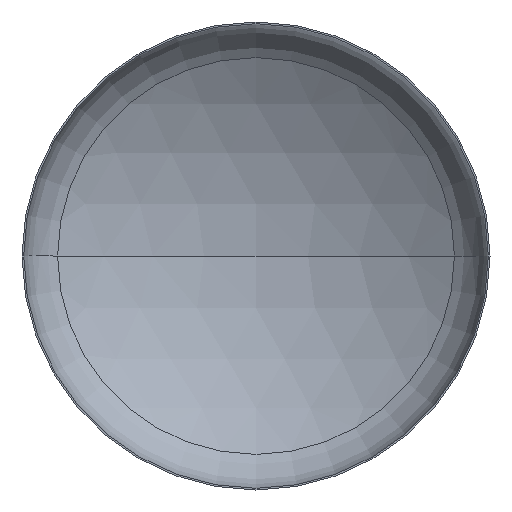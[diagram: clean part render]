
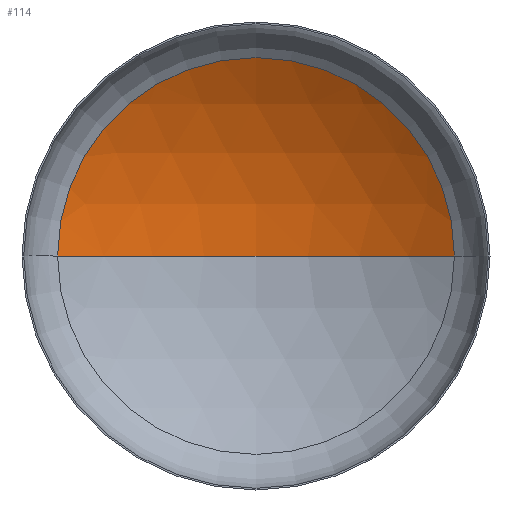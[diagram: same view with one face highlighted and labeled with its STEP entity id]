
A CAD part, front view. The second image highlights one B-rep face of the part: STEP entity #114.
In plain terms, the highlighted spherical face has radius 2880 mm.
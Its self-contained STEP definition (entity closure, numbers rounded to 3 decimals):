
#9 = DIRECTION ( 'NONE',  ( 0., 0., -1. ) ) ;
#12 = CARTESIAN_POINT ( 'NONE',  ( 1526.09, 510.676, 0. ) ) ;
#25 = AXIS2_PLACEMENT_3D ( 'NONE', #289, #44, #36 ) ;
#26 = AXIS2_PLACEMENT_3D ( 'NONE', #202, #218, #219 ) ;
#28 = AXIS2_PLACEMENT_3D ( 'NONE', #292, #9, #204 ) ;
#30 = ORIENTED_EDGE ( 'NONE', *, *, #102, .T. ) ;
#31 = EDGE_LOOP ( 'NONE', ( #155, #30, #148 ) ) ;
#32 = AXIS2_PLACEMENT_3D ( 'NONE', #225, #209, #211 ) ;
#36 = DIRECTION ( 'NONE',  ( -1., 0., 0. ) ) ;
#44 = DIRECTION ( 'NONE',  ( 0., 0., -1. ) ) ;
#83 = EDGE_CURVE ( 'NONE', #171, #140, #356, .T. ) ;
#89 = CARTESIAN_POINT ( 'NONE',  ( 0., 948.249, 0. ) ) ;
#102 = EDGE_CURVE ( 'NONE', #267, #171, #285, .T. ) ;
#114 = ADVANCED_FACE ( 'NONE', ( #406 ), #227, .F. ) ;
#135 = EDGE_CURVE ( 'NONE', #267, #140, #400, .T. ) ;
#140 = VERTEX_POINT ( 'NONE', #349 ) ;
#148 = ORIENTED_EDGE ( 'NONE', *, *, #83, .T. ) ;
#155 = ORIENTED_EDGE ( 'NONE', *, *, #135, .F. ) ;
#171 = VERTEX_POINT ( 'NONE', #12 ) ;
#202 = CARTESIAN_POINT ( 'NONE',  ( 0., -1931.751, 0. ) ) ;
#204 = DIRECTION ( 'NONE',  ( -1., 0., 0. ) ) ;
#209 = DIRECTION ( 'NONE',  ( 0., -1., 0. ) ) ;
#211 = DIRECTION ( 'NONE',  ( 1., 0., 0. ) ) ;
#218 = DIRECTION ( 'NONE',  ( 0., 0., 1. ) ) ;
#219 = DIRECTION ( 'NONE',  ( 1., 0., 0. ) ) ;
#225 = CARTESIAN_POINT ( 'NONE',  ( 0., 510.676, 0. ) ) ;
#227 = SPHERICAL_SURFACE ( 'NONE', #25, 2880. ) ;
#267 = VERTEX_POINT ( 'NONE', #89 ) ;
#285 = CIRCLE ( 'NONE', #28, 2880. ) ;
#289 = CARTESIAN_POINT ( 'NONE',  ( 0., -1931.751, 0. ) ) ;
#292 = CARTESIAN_POINT ( 'NONE',  ( 0., -1931.751, 0. ) ) ;
#349 = CARTESIAN_POINT ( 'NONE',  ( -1526.09, 510.676, 0. ) ) ;
#356 = CIRCLE ( 'NONE', #32, 1526.09 ) ;
#400 = CIRCLE ( 'NONE', #26, 2880. ) ;
#406 = FACE_OUTER_BOUND ( 'NONE', #31, .T. ) ;
